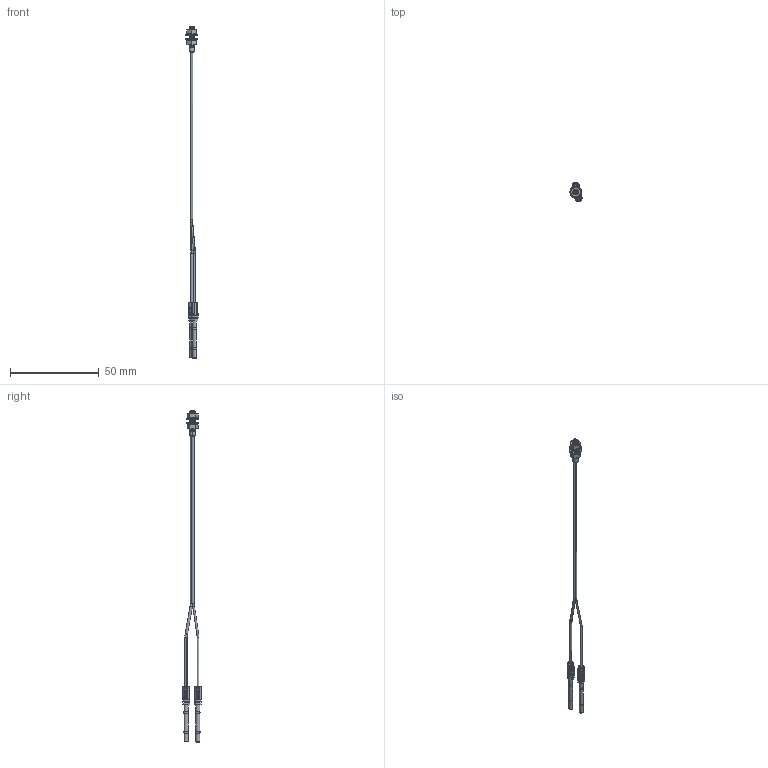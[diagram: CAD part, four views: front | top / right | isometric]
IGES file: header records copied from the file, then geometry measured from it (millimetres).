
Start section: SolidWorks IGES file using analytic representation for surfaces
Bounding box: 6.84 x 10.7 x 187.01 mm (x, y, z)
Surface area: 2608.4 mm2 (no closed solid volume)
Topology: 0 solids, 0 shells, 410 faces, 4993 edges, 4993 vertices
Faces by surface type: revolution 206, bspline 204
